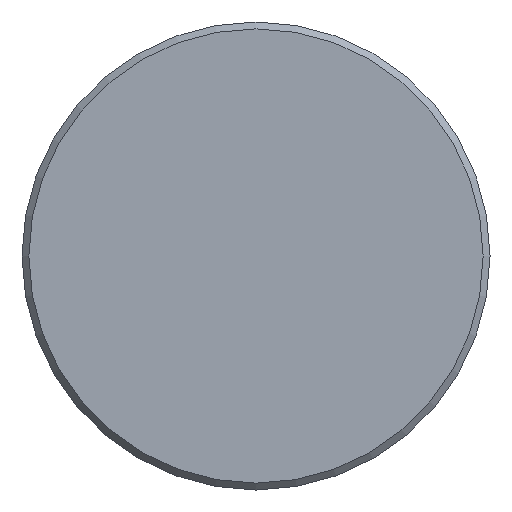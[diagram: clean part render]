
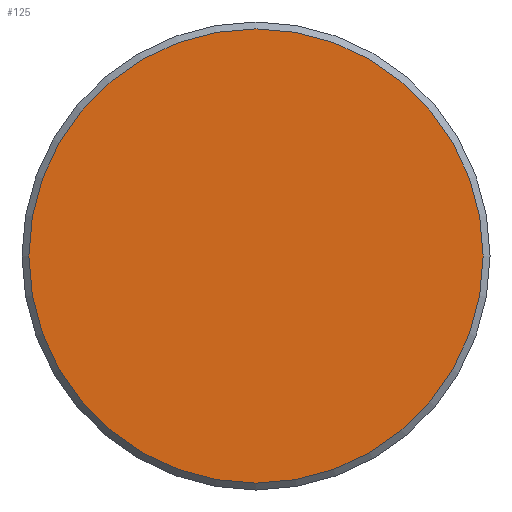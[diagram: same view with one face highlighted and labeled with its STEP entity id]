
A CAD part, front view. The second image highlights one B-rep face of the part: STEP entity #125.
In plain terms, the highlighted planar face has unit normal (0, -1, 0).
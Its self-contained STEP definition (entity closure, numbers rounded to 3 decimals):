
#19=PLANE('',#158);
#29=FACE_OUTER_BOUND('',#39,.T.);
#39=EDGE_LOOP('',(#110));
#58=CIRCLE('',#154,16.5);
#67=VERTEX_POINT('',#227);
#79=EDGE_CURVE('',#67,#67,#58,.T.);
#110=ORIENTED_EDGE('',*,*,#79,.F.);
#125=ADVANCED_FACE('',(#29),#19,.F.);
#154=AXIS2_PLACEMENT_3D('',#228,#190,#191);
#158=AXIS2_PLACEMENT_3D('',#236,#200,#201);
#190=DIRECTION('center_axis',(0.,1.,0.));
#191=DIRECTION('ref_axis',(-1.,0.,0.));
#200=DIRECTION('center_axis',(0.,1.,0.));
#201=DIRECTION('ref_axis',(-1.,0.,0.));
#227=CARTESIAN_POINT('',(16.5,-125.,0.));
#228=CARTESIAN_POINT('Origin',(0.,-125.,0.));
#236=CARTESIAN_POINT('Origin',(0.,-125.,0.));
